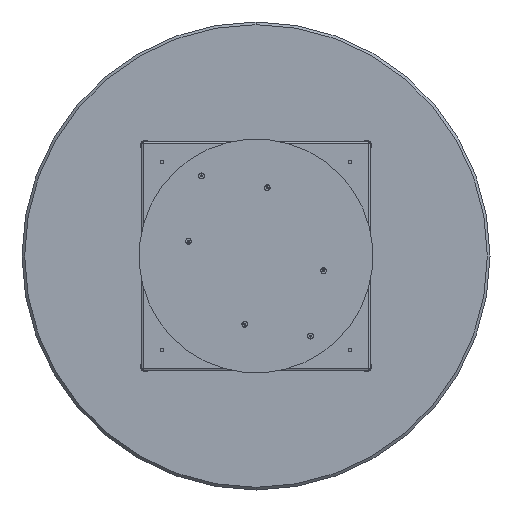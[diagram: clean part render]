
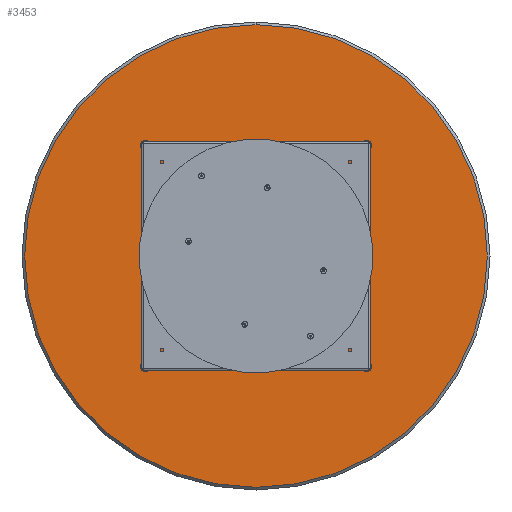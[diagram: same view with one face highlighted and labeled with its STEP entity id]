
A CAD part, front view. The second image highlights one B-rep face of the part: STEP entity #3453.
In plain terms, the highlighted planar face has unit normal (0, -1, 0).
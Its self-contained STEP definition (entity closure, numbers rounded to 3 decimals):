
#1255 = VERTEX_POINT ( 'NONE', #12602 ) ;
#2306 = CARTESIAN_POINT ( 'NONE',  ( 0., 0., 0. ) ) ;
#2529 = DIRECTION ( 'NONE',  ( 0., -1., 0. ) ) ;
#3279 = AXIS2_PLACEMENT_3D ( 'NONE', #2306, #11160, #7497 ) ;
#3453 = ADVANCED_FACE ( 'NONE', ( #15135 ), #22022, .T. ) ;
#4693 = EDGE_LOOP ( 'NONE', ( #6632, #6321 ) ) ;
#5759 = CARTESIAN_POINT ( 'NONE',  ( 0., 0., 0. ) ) ;
#6321 = ORIENTED_EDGE ( 'NONE', *, *, #21782, .T. ) ;
#6632 = ORIENTED_EDGE ( 'NONE', *, *, #22207, .T. ) ;
#7497 = DIRECTION ( 'NONE',  ( 0., 0., -1. ) ) ;
#9599 = DIRECTION ( 'NONE',  ( 0., 0., -1. ) ) ;
#11160 = DIRECTION ( 'NONE',  ( 0., -1., 0. ) ) ;
#12602 = CARTESIAN_POINT ( 'NONE',  ( 0., 0., -692. ) ) ;
#12831 = CIRCLE ( 'NONE', #3279, 692. ) ;
#14844 = DIRECTION ( 'NONE',  ( 0., 0., -1. ) ) ;
#15135 = FACE_OUTER_BOUND ( 'NONE', #4693, .T. ) ;
#16872 = CIRCLE ( 'NONE', #21303, 692. ) ;
#16952 = CARTESIAN_POINT ( 'NONE',  ( 0., 0., 0. ) ) ;
#18502 = AXIS2_PLACEMENT_3D ( 'NONE', #16952, #18553, #9599 ) ;
#18526 = VERTEX_POINT ( 'NONE', #18774 ) ;
#18553 = DIRECTION ( 'NONE',  ( 0., -1., 0. ) ) ;
#18774 = CARTESIAN_POINT ( 'NONE',  ( 0., 0., 692. ) ) ;
#21303 = AXIS2_PLACEMENT_3D ( 'NONE', #5759, #2529, #14844 ) ;
#21782 = EDGE_CURVE ( 'NONE', #1255, #18526, #12831, .T. ) ;
#22022 = PLANE ( 'NONE',  #18502 ) ;
#22207 = EDGE_CURVE ( 'NONE', #18526, #1255, #16872, .T. ) ;
